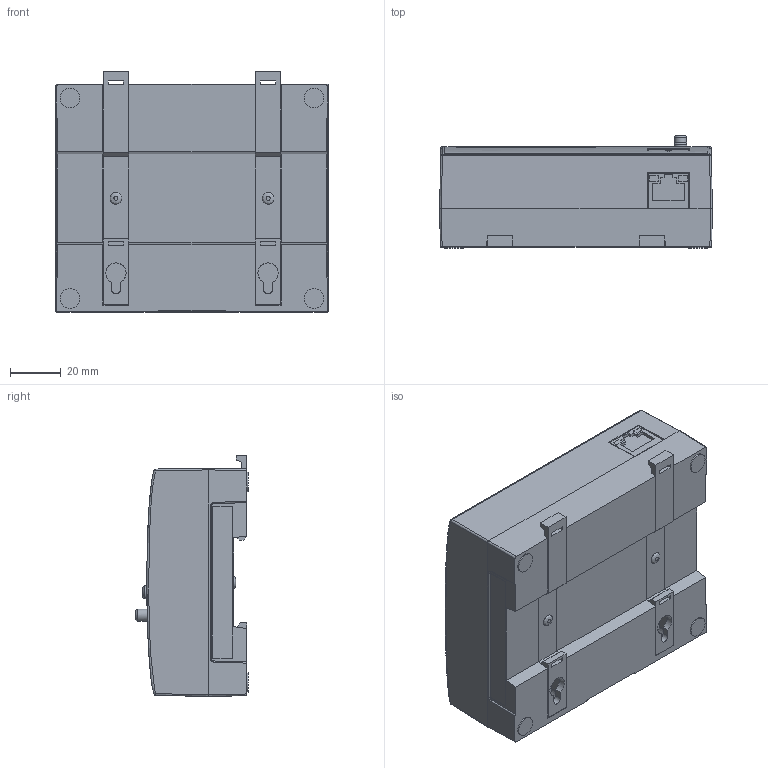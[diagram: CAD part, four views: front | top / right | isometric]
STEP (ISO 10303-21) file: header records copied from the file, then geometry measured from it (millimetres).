
FILE_DESCRIPTION(/* description */ ('STEP AP242','CAx-IF Rec.Pracs.---Representation and Presentation of Product Manufacturing Information (PMI)---4.0---2014-10-13','CAx-IF Rec.Pracs.---3D Tessellated Geometry---0.4---2014-09-14','2;1'),/* implementation_level */ '2;1');
FILE_NAME(/* name */ '6634d0925996e81fac3b0cd3',/* time_stamp */ '2024-05-03T11:54:59Z',/* author */ (''),/* organization */ (''),/* preprocessor_version */ 'ST-DEVELOPER v20',/* originating_system */ ' ',/* authorisation */ ' ');
FILE_SCHEMA (('AP242_MANAGED_MODEL_BASED_3D_ENGINEERING_MIM_LF { 1 0 10303 442 1 1 4 }'));
Length unit declared in the file: metre
Products named in the file (1): RIO D4
Bounding box: 107.5 x 44.34 x 94.94 mm (x, y, z)
Volume: 349316.2 mm3; surface area: 38213.7 mm2
Topology: 1 solids, 1 shells, 1109 faces, 2911 edges, 1923 vertices
Faces by surface type: plane 892, cylinder 128, bspline 84, sphere 4, torus 1
Full cylindrical faces by diameter (mm): 0.544 x7, 0.705 x7, 0.866 x7, 0.99 x7, 1.485 x1, 1.8 x1, 2.3 x8, 4.8 x1, 5.1 x1, 7.8 x4, 9.9 x1, 10.782 x1
Entity records: 42219 total; most frequent: CARTESIAN_POINT 14441, ORIENTED_EDGE 5700, DIRECTION 4684, EDGE_CURVE 2850, LINE 2416, VECTOR 2416, VERTEX_POINT 1916, EDGE_LOOP 1286
